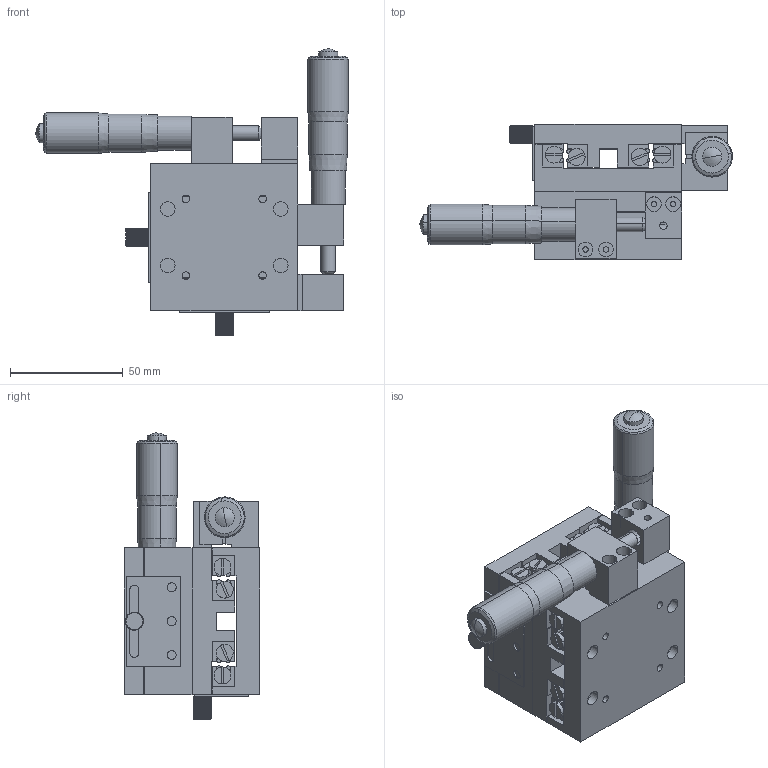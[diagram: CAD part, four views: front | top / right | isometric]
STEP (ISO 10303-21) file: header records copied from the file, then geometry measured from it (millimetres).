
FILE_DESCRIPTION (( 'STEP AP203' ), '1' );
FILE_NAME ('HGAM204.STEP', '2017-09-19T01:22:17', ( '123' ), ( 'Microsoft' ), 'SwSTEP 2.0', 'SolidWorks 2016', '' );
FILE_SCHEMA (( 'CONFIG_CONTROL_DESIGN' ));
Length unit declared in the file: millimetre
Products named in the file (1): HGAM204
Bounding box: 138.5 x 60 x 127 mm (x, y, z)
Volume: 277126.9 mm3; surface area: 124400 mm2
Topology: 76 solids, 76 shells, 1560 faces, 4050 edges, 2638 vertices
Faces by surface type: plane 1062, cylinder 402, cone 80, torus 12, sphere 4
Entity records: 48729 total; most frequent: CARTESIAN_POINT 11937, ORIENTED_EDGE 8004, DIRECTION 6876, EDGE_CURVE 4002, VERTEX_POINT 2638, AXIS2_PLACEMENT_3D 2525, LINE 1826, VECTOR 1826
